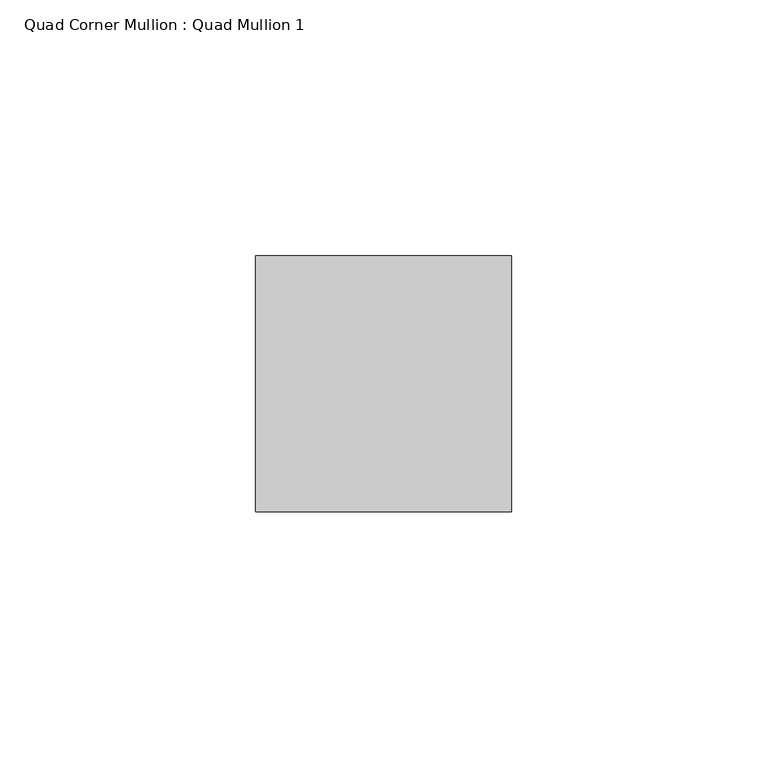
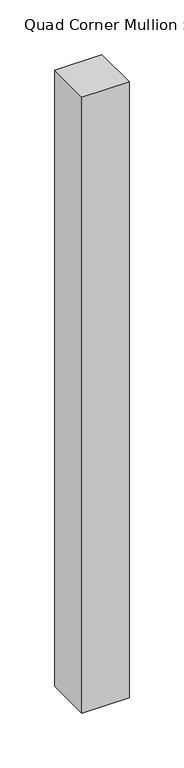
"""IFC4 building model written with IfcOpenShell, lengths in millimetres: member geometry, Quad Corner Mullion : Quad Mullion 1."""

from ifc_helpers import new_model, si_unit, frame, origin, place, context, project, spatial, polyline, outline, extrude, source, transform, mapped, element, save


def quad_corner_mullion_quad_mullion_1_3bb71d16(model_context):
    return source(origin(), model_context, "Body", "SweptSolid", [
        extrude(outline(polyline([(25.0, -25.0), (-25.0, -25.0), (-25.0, 25.0), (25.0, 25.0), (25.0, -25.0)])), frame((0.0, 0.0, -687.7658765), z_axis=(0.0, 0.0, 1.0), x_axis=(1.0, 0.0, 0.0)), (0.0, 0.0, 1.0), 687.7658765),
    ])


if __name__ == "__main__":
    model = new_model("IFC4")
    model_context = context("Model", 3, world=origin())
    ifc_project = project(units=[si_unit("LENGTHUNIT", "METRE", prefix="MILLI")], contexts=[model_context])
    site = spatial("IfcSite", under=ifc_project)
    building = spatial("IfcBuilding", under=site)
    placement = place(None, origin())
    quad_corner_mullion_quad_mullion_1_shape = quad_corner_mullion_quad_mullion_1_3bb71d16(model_context)
    element("IfcMember", 1, ObjectType="Quad Corner Mullion : Quad Mullion 1", at=placement, inside=building, context=model_context, shape_type="MappedRepresentation", body=[
        mapped(quad_corner_mullion_quad_mullion_1_shape, transform((0.0, 0.0, 0.0), x_axis=(1.0, 0.0, 0.0), y_axis=(0.0, 1.0, 0.0), z_axis=(0.0, 0.0, 1.0))),
    ])
    save(model, "model.ifc")
